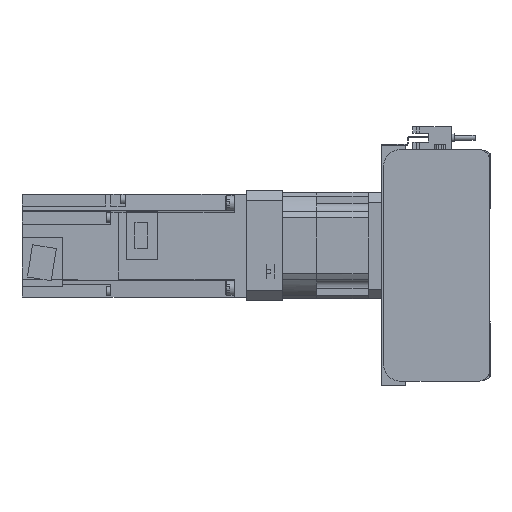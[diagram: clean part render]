
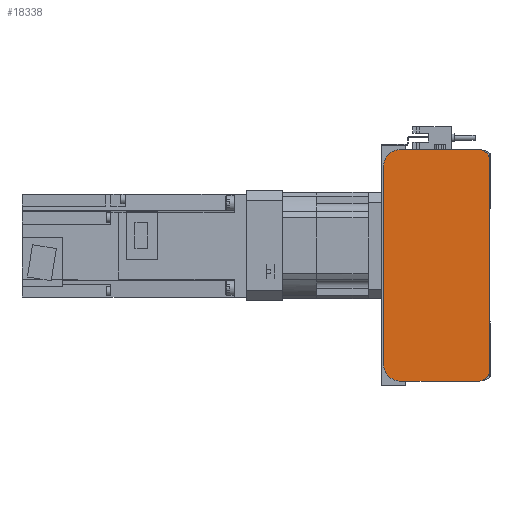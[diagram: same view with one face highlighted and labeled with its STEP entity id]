
A CAD part, left-side view. The second image highlights one B-rep face of the part: STEP entity #18338.
In plain terms, the highlighted planar face has unit normal (-1, 0, 0).
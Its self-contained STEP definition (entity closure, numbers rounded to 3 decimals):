
#1136=CIRCLE('',#20089,5.);
#1137=CIRCLE('',#20092,5.);
#1138=CIRCLE('',#20095,10.);
#1139=CIRCLE('',#20098,10.);
#5533=ORIENTED_EDGE('',*,*,#8273,.F.);
#5534=ORIENTED_EDGE('',*,*,#8430,.F.);
#5535=ORIENTED_EDGE('',*,*,#8422,.F.);
#5536=ORIENTED_EDGE('',*,*,#8420,.F.);
#5537=ORIENTED_EDGE('',*,*,#8071,.F.);
#5538=ORIENTED_EDGE('',*,*,#8419,.F.);
#5539=ORIENTED_EDGE('',*,*,#8417,.F.);
#5540=ORIENTED_EDGE('',*,*,#8415,.F.);
#5541=ORIENTED_EDGE('',*,*,#8413,.F.);
#5542=ORIENTED_EDGE('',*,*,#8411,.F.);
#8071=EDGE_CURVE('',#10022,#10023,#11658,.T.);
#8273=EDGE_CURVE('',#10123,#10124,#11801,.T.);
#8411=EDGE_CURVE('',#10124,#10207,#11930,.T.);
#8413=EDGE_CURVE('',#10207,#10208,#1136,.T.);
#8415=EDGE_CURVE('',#10208,#10209,#11933,.T.);
#8417=EDGE_CURVE('',#10209,#10210,#1137,.T.);
#8419=EDGE_CURVE('',#10210,#10022,#11936,.T.);
#8420=EDGE_CURVE('',#10023,#10211,#1138,.T.);
#8422=EDGE_CURVE('',#10211,#10212,#11938,.T.);
#8430=EDGE_CURVE('',#10212,#10123,#1139,.T.);
#10022=VERTEX_POINT('',#29976);
#10023=VERTEX_POINT('',#29978);
#10123=VERTEX_POINT('',#30355);
#10124=VERTEX_POINT('',#30357);
#10207=VERTEX_POINT('',#30634);
#10208=VERTEX_POINT('',#30638);
#10209=VERTEX_POINT('',#30642);
#10210=VERTEX_POINT('',#30646);
#10211=VERTEX_POINT('',#30652);
#10212=VERTEX_POINT('',#30656);
#11658=LINE('',#29977,#13341);
#11801=LINE('',#30356,#13484);
#11930=LINE('',#30633,#13613);
#11933=LINE('',#30641,#13616);
#11936=LINE('',#30649,#13619);
#11938=LINE('',#30655,#13621);
#13341=VECTOR('',#24348,1000.);
#13484=VECTOR('',#24761,1000.);
#13613=VECTOR('',#25020,1000.);
#13616=VECTOR('',#25029,1000.);
#13619=VECTOR('',#25038,1000.);
#13621=VECTOR('',#25046,1000.);
#15003=EDGE_LOOP('',(#5533,#5534,#5535,#5536,#5537,#5538,#5539,#5540,#5541,
#5542));
#16532=FACE_BOUND('',#15003,.T.);
#17351=PLANE('',#20099);
#18338=ADVANCED_FACE('',(#16532),#17351,.F.);
#20089=AXIS2_PLACEMENT_3D('',#30637,#25024,#25025);
#20092=AXIS2_PLACEMENT_3D('',#30645,#25033,#25034);
#20095=AXIS2_PLACEMENT_3D('',#30651,#25041,#25042);
#20098=AXIS2_PLACEMENT_3D('',#30669,#25056,#25057);
#20099=AXIS2_PLACEMENT_3D('',#30670,#25058,#25059);
#24348=DIRECTION('',(0.,1.,0.));
#24761=DIRECTION('',(0.,-1.,0.));
#25020=DIRECTION('',(0.,-0.942,-0.336));
#25024=DIRECTION('',(1.,0.,0.));
#25025=DIRECTION('',(0.,0.,-1.));
#25029=DIRECTION('',(0.,0.,-1.));
#25033=DIRECTION('',(1.,0.,0.));
#25034=DIRECTION('',(0.,0.,-1.));
#25038=DIRECTION('',(0.,0.942,-0.336));
#25041=DIRECTION('',(1.,0.,0.));
#25042=DIRECTION('',(0.,0.,-1.));
#25046=DIRECTION('',(0.,0.,1.));
#25056=DIRECTION('',(1.,0.,0.));
#25057=DIRECTION('',(0.,0.,-1.));
#25058=DIRECTION('',(1.,0.,0.));
#25059=DIRECTION('',(0.,0.,-1.));
#29976=CARTESIAN_POINT('',(-10.,6.,-67.5));
#29977=CARTESIAN_POINT('',(-10.,6.,-67.5));
#29978=CARTESIAN_POINT('',(-10.,52.,-67.5));
#30355=CARTESIAN_POINT('',(-10.,52.,67.5));
#30356=CARTESIAN_POINT('',(-10.,52.,67.5));
#30357=CARTESIAN_POINT('',(-10.,6.,67.5));
#30633=CARTESIAN_POINT('',(-10.,6.,67.5));
#30634=CARTESIAN_POINT('',(-10.,3.822,66.724));
#30637=CARTESIAN_POINT('',(-10.,5.5,62.014));
#30638=CARTESIAN_POINT('',(-10.,0.5,62.014));
#30641=CARTESIAN_POINT('',(-10.,0.5,62.014));
#30642=CARTESIAN_POINT('',(-10.,0.5,-62.014));
#30645=CARTESIAN_POINT('',(-10.,5.5,-62.014));
#30646=CARTESIAN_POINT('',(-10.,3.822,-66.724));
#30649=CARTESIAN_POINT('',(-10.,3.822,-66.724));
#30651=CARTESIAN_POINT('',(-10.,52.,-57.5));
#30652=CARTESIAN_POINT('',(-10.,62.,-57.5));
#30655=CARTESIAN_POINT('',(-10.,62.,-57.5));
#30656=CARTESIAN_POINT('',(-10.,62.,57.5));
#30669=CARTESIAN_POINT('',(-10.,52.,57.5));
#30670=CARTESIAN_POINT('',(-10.,5.5,62.014));
